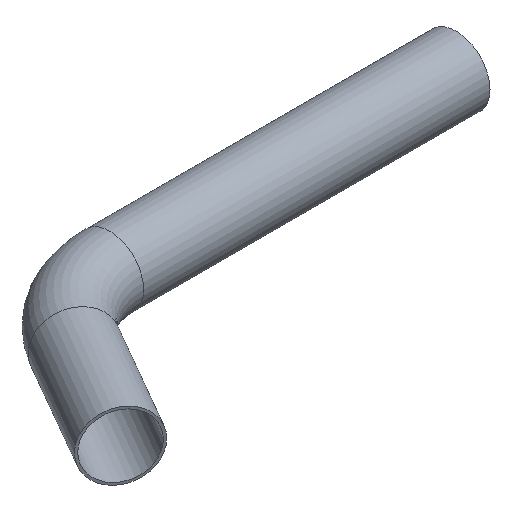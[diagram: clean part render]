
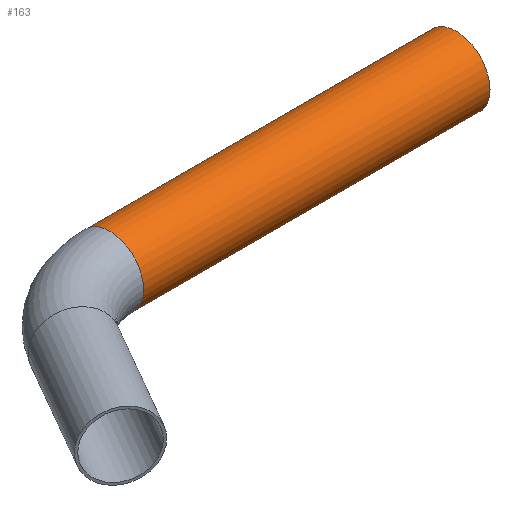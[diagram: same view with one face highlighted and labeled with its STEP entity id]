
A CAD part, isometric view. The second image highlights one B-rep face of the part: STEP entity #163.
In plain terms, the highlighted cylindrical face has radius 21 mm (diameter 42 mm), a full revolution.
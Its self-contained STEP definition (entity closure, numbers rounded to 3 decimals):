
#136=CARTESIAN_POINT('',(0.,60.0,0.0));
#137=DIRECTION('',(1.0,0.0,0.0));
#138=DIRECTION('',(0.0,-1.0,0.0));
#139=AXIS2_PLACEMENT_3D('',#136,#137,#138);
#140=CYLINDRICAL_SURFACE('',#139,21.);
#141=CARTESIAN_POINT('',(215.359,81.,0.));
#142=VERTEX_POINT('',#141);
#143=CARTESIAN_POINT('',(215.359,60.0,0.0));
#144=DIRECTION('',(-1.0,0.0,0.0));
#145=DIRECTION('',(0.0,-1.0,0.0));
#146=AXIS2_PLACEMENT_3D('',#143,#144,#145);
#147=CIRCLE('',#146,21.);
#148=EDGE_CURVE('',#142,#142,#147,.T.);
#149=ORIENTED_EDGE('',*,*,#148,.T.);
#150=EDGE_LOOP('',(#149));
#151=FACE_OUTER_BOUND('',#150,.T.);
#152=CARTESIAN_POINT('',(0.,81.,0.));
#153=VERTEX_POINT('',#152);
#154=CARTESIAN_POINT('',(0.,60.0,0.0));
#155=DIRECTION('',(-1.0,0.0,0.0));
#156=DIRECTION('',(0.0,-1.0,0.0));
#157=AXIS2_PLACEMENT_3D('',#154,#155,#156);
#158=CIRCLE('',#157,21.);
#159=EDGE_CURVE('',#153,#153,#158,.T.);
#160=ORIENTED_EDGE('',*,*,#159,.F.);
#161=EDGE_LOOP('',(#160));
#162=FACE_BOUND('',#161,.T.);
#163=ADVANCED_FACE('',(#151,#162),#140,.T.);
